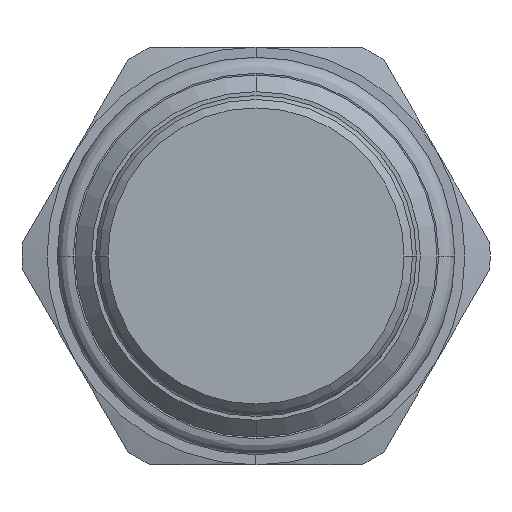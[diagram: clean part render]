
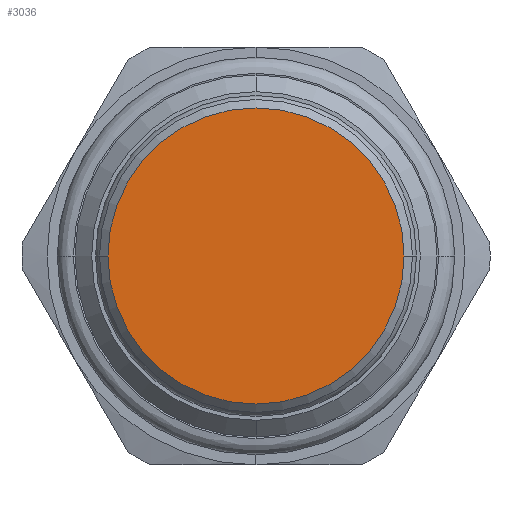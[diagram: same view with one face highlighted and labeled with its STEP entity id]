
A CAD part, front view. The second image highlights one B-rep face of the part: STEP entity #3036.
In plain terms, the highlighted planar face has unit normal (0, -1, 0).
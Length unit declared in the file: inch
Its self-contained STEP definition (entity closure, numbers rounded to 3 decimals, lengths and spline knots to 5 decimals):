
#953=CARTESIAN_POINT('',(0.,-1.74843,0.));
#954=DIRECTION('',(0.,1.,0.));
#955=DIRECTION('',(-1.,0.,0.));
#956=AXIS2_PLACEMENT_3D('',#953,#954,#955);
#958=CARTESIAN_POINT('',(0.,-1.74843,0.));
#959=DIRECTION('',(0.,1.,0.));
#960=DIRECTION('',(1.,0.,0.));
#961=AXIS2_PLACEMENT_3D('',#958,#959,#960);
#1569=CARTESIAN_POINT('',(-0.5315,-1.74843,0.));
#1570=CARTESIAN_POINT('',(0.5315,-1.74843,0.));
#1571=VERTEX_POINT('',#1569);
#1572=VERTEX_POINT('',#1570);
#3026=CARTESIAN_POINT('',(0.,-1.74843,0.));
#3027=DIRECTION('',(0.,-1.,0.));
#3028=DIRECTION('',(-1.,0.,0.));
#3029=AXIS2_PLACEMENT_3D('',#3026,#3027,#3028);
#3030=PLANE('',#3029);
#3032=ORIENTED_EDGE('',*,*,#3031,.T.);
#3033=ORIENTED_EDGE('',*,*,#3016,.T.);
#3034=EDGE_LOOP('',(#3032,#3033));
#3035=FACE_OUTER_BOUND('',#3034,.F.);
#3036=ADVANCED_FACE('',(#3035),#3030,.T.);
#957=CIRCLE('',#956,0.5315);
#962=CIRCLE('',#961,0.5315);
#3016=EDGE_CURVE('',#1572,#1571,#962,.T.);
#3031=EDGE_CURVE('',#1571,#1572,#957,.T.);
